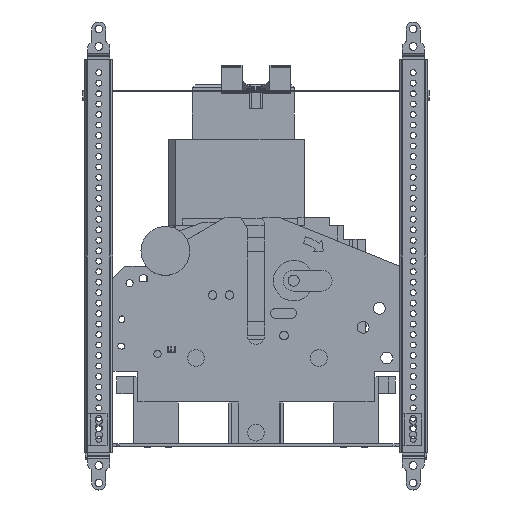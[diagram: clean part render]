
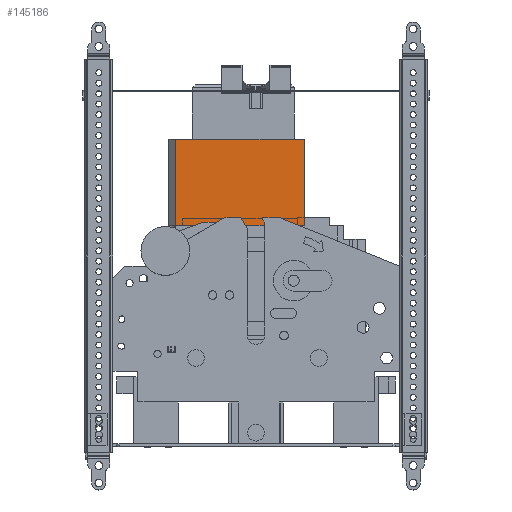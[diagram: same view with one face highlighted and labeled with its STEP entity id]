
A CAD part, left-side view. The second image highlights one B-rep face of the part: STEP entity #145186.
In plain terms, the highlighted planar face has unit normal (-1, 0, 0).
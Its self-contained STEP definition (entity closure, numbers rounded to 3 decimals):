
#143686=CARTESIAN_POINT(' ',(-196.691,60.543,152.353));
#143687=VERTEX_POINT(' ',#143686);
#143701=CARTESIAN_POINT(' ',(-196.691,60.543,152.353));
#143706=DIRECTION(' ',(0.,-1.,0.));
#143711=VECTOR(' ',#143706,1.);
#143716=LINE('',#143701,#143711);
#143721=CARTESIAN_POINT(' ',(-196.691,-31.457,152.353));
#143722=VERTEX_POINT(' ',#143721);
#143726=EDGE_CURVE(' ',#143687,#143722,#143716,.T.);
#145016=CARTESIAN_POINT(' ',(-196.691,60.543,90.653));
#145017=VERTEX_POINT(' ',#145016);
#145031=CARTESIAN_POINT(' ',(-196.691,60.543,152.353));
#145036=DIRECTION(' ',(0.,0.,-1.));
#145041=VECTOR(' ',#145036,1.);
#145046=LINE('',#145031,#145041);
#145051=EDGE_CURVE(' ',#143687,#145017,#145046,.T.);
#145076=DIRECTION(' ',(-1.,0.,-0.));
#145081=CARTESIAN_POINT(' ',(-196.691,-31.457,90.653));
#145086=DIRECTION(' ',(0.,-0.,1.));
#145091=AXIS2_PLACEMENT_3D(' ',#145081,#145076,#145086);
#145096=PLANE('NONE',#145091);
#145101=ORIENTED_EDGE(' ',*,*,#143726,.F.);
#145106=ORIENTED_EDGE(' ',*,*,#145051,.T.);
#145111=CARTESIAN_POINT(' ',(-196.691,60.543,90.653));
#145116=DIRECTION(' ',(0.,-1.,0.));
#145121=VECTOR(' ',#145116,1.);
#145126=LINE('',#145111,#145121);
#145131=CARTESIAN_POINT(' ',(-196.691,-31.457,90.653));
#145132=VERTEX_POINT(' ',#145131);
#145136=EDGE_CURVE(' ',#145017,#145132,#145126,.T.);
#145141=ORIENTED_EDGE(' ',*,*,#145136,.T.);
#145146=CARTESIAN_POINT(' ',(-196.691,-31.457,152.353));
#145151=DIRECTION(' ',(0.,0.,-1.));
#145156=VECTOR(' ',#145151,1.);
#145161=LINE('',#145146,#145156);
#145166=EDGE_CURVE(' ',#143722,#145132,#145161,.T.);
#145171=ORIENTED_EDGE(' ',*,*,#145166,.F.);
#145176=EDGE_LOOP(' ',(#145101,#145106,#145141,#145171));
#145181=FACE_OUTER_BOUND(' ',#145176,.T.);
#145186=ADVANCED_FACE('NONE',(#145181),#145096,.T.);
